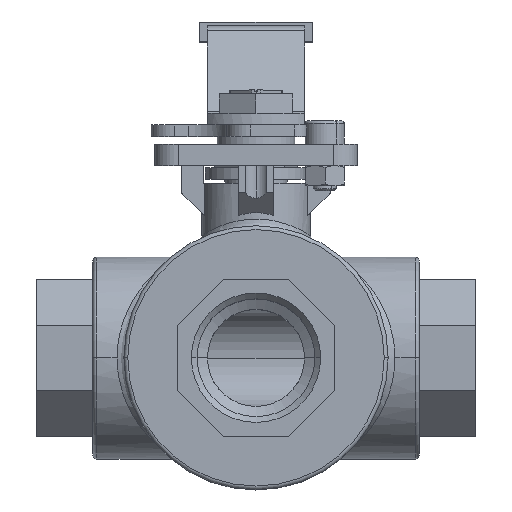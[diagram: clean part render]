
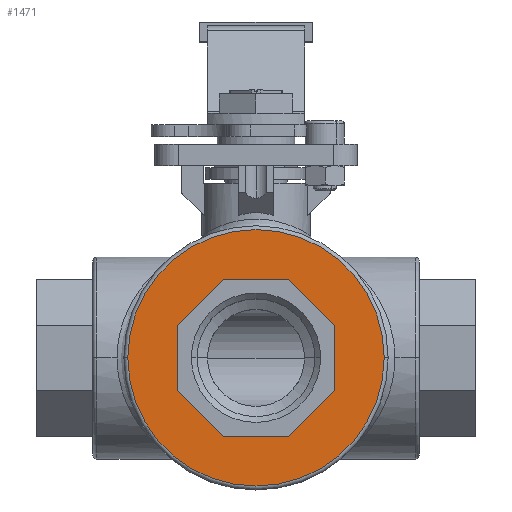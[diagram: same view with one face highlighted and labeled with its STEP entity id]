
A CAD part, top view. The second image highlights one B-rep face of the part: STEP entity #1471.
In plain terms, the highlighted planar face has unit normal (0, 0, 1).
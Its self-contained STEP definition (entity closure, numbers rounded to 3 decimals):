
#502 = LINE ( 'NONE', #505, #4047 ) ;
#505 = CARTESIAN_POINT ( 'NONE',  ( 8.388, 20.25, 42. ) ) ;
#511 = DIRECTION ( 'NONE',  ( -1., 0., 0. ) ) ;
#531 = LINE ( 'NONE', #532, #4059 ) ;
#532 = CARTESIAN_POINT ( 'NONE',  ( 20.25, 8.388, 42. ) ) ;
#541 = DIRECTION ( 'NONE',  ( -0.707, 0.707, 0. ) ) ;
#571 = LINE ( 'NONE', #589, #3631 ) ;
#582 = LINE ( 'NONE', #584, #3629 ) ;
#584 = CARTESIAN_POINT ( 'NONE',  ( 20.25, -8.388, 42. ) ) ;
#585 = DIRECTION ( 'NONE',  ( 0., 1., 0. ) ) ;
#589 = CARTESIAN_POINT ( 'NONE',  ( 8.388, -20.25, 42. ) ) ;
#590 = DIRECTION ( 'NONE',  ( 0.707, 0.707, 0. ) ) ;
#592 = CARTESIAN_POINT ( 'NONE',  ( 0., 0., 42. ) ) ;
#593 = DIRECTION ( 'NONE',  ( 0., 0., 1. ) ) ;
#594 = DIRECTION ( 'NONE',  ( 1., 0., 0. ) ) ;
#601 = LINE ( 'NONE', #602, #3642 ) ;
#602 = CARTESIAN_POINT ( 'NONE',  ( -8.388, -20.25, 42. ) ) ;
#611 = DIRECTION ( 'NONE',  ( 1., 0., 0. ) ) ;
#612 = LINE ( 'NONE', #613, #3644 ) ;
#613 = CARTESIAN_POINT ( 'NONE',  ( -20.25, -8.388, 42. ) ) ;
#614 = DIRECTION ( 'NONE',  ( 0.707, -0.707, 0. ) ) ;
#655 = LINE ( 'NONE', #656, #3660 ) ;
#656 = CARTESIAN_POINT ( 'NONE',  ( -8.388, 20.25, 42. ) ) ;
#657 = DIRECTION ( 'NONE',  ( -0.707, -0.707, 0. ) ) ;
#1224 = LINE ( 'NONE', #1225, #3783 ) ;
#1225 = CARTESIAN_POINT ( 'NONE',  ( -20.25, 8.388, 42. ) ) ;
#1226 = DIRECTION ( 'NONE',  ( 0., -1., 0. ) ) ;
#1471 = ADVANCED_FACE ( 'NONE', ( #11721, #11715 ), #11723, .T. ) ;
#1714 = AXIS2_PLACEMENT_3D ( 'NONE', #11720, #11717, #11725 ) ;
#1913 = CARTESIAN_POINT ( 'NONE',  ( -8.388, -20.25, 42. ) ) ;
#1914 = CARTESIAN_POINT ( 'NONE',  ( 8.388, -20.25, 42. ) ) ;
#1915 = CARTESIAN_POINT ( 'NONE',  ( 8.388, 20.25, 42. ) ) ;
#1992 = CARTESIAN_POINT ( 'NONE',  ( 20.25, -8.388, 42. ) ) ;
#1993 = CARTESIAN_POINT ( 'NONE',  ( 20.25, 8.388, 42. ) ) ;
#1994 = CARTESIAN_POINT ( 'NONE',  ( -20.25, -8.388, 42. ) ) ;
#1995 = CARTESIAN_POINT ( 'NONE',  ( -20.25, 8.388, 42. ) ) ;
#1996 = CARTESIAN_POINT ( 'NONE',  ( -8.388, 20.25, 42. ) ) ;
#3629 = VECTOR ( 'NONE', #585, 1000. ) ;
#3631 = VECTOR ( 'NONE', #590, 1000. ) ;
#3634 = CIRCLE ( 'NONE', #3636, 33. ) ;
#3636 = AXIS2_PLACEMENT_3D ( 'NONE', #592, #593, #594 ) ;
#3642 = VECTOR ( 'NONE', #611, 1000. ) ;
#3644 = VECTOR ( 'NONE', #614, 1000. ) ;
#3660 = VECTOR ( 'NONE', #657, 1000. ) ;
#3783 = VECTOR ( 'NONE', #1226, 1000. ) ;
#4047 = VECTOR ( 'NONE', #511, 1000. ) ;
#4059 = VECTOR ( 'NONE', #541, 1000. ) ;
#4114 = EDGE_CURVE ( 'NONE', #5077, #5040, #8972, .T. ) ;
#5040 = VERTEX_POINT ( 'NONE', #10837 ) ;
#5077 = VERTEX_POINT ( 'NONE', #10860 ) ;
#5448 = VERTEX_POINT ( 'NONE', #1913 ) ;
#5449 = VERTEX_POINT ( 'NONE', #1914 ) ;
#5450 = VERTEX_POINT ( 'NONE', #1915 ) ;
#5635 = VERTEX_POINT ( 'NONE', #1992 ) ;
#5636 = VERTEX_POINT ( 'NONE', #1993 ) ;
#5637 = VERTEX_POINT ( 'NONE', #1994 ) ;
#5638 = VERTEX_POINT ( 'NONE', #1995 ) ;
#5639 = VERTEX_POINT ( 'NONE', #1996 ) ;
#7135 = EDGE_LOOP ( 'NONE', ( #9488, #9487, #9489, #9491, #9492, #9493, #9494, #9495 ) ) ;
#7428 = EDGE_LOOP ( 'NONE', ( #9502, #9503 ) ) ;
#7601 = EDGE_CURVE ( 'NONE', #5450, #5639, #502, .T. ) ;
#7610 = EDGE_CURVE ( 'NONE', #5636, #5450, #531, .T. ) ;
#7624 = EDGE_CURVE ( 'NONE', #5635, #5636, #582, .T. ) ;
#7626 = EDGE_CURVE ( 'NONE', #5449, #5635, #571, .T. ) ;
#7627 = EDGE_CURVE ( 'NONE', #5040, #5077, #3634, .T. ) ;
#7633 = EDGE_CURVE ( 'NONE', #5448, #5449, #601, .T. ) ;
#7634 = EDGE_CURVE ( 'NONE', #5637, #5448, #612, .T. ) ;
#7649 = EDGE_CURVE ( 'NONE', #5639, #5638, #655, .T. ) ;
#7741 = EDGE_CURVE ( 'NONE', #5638, #5637, #1224, .T. ) ;
#8972 = CIRCLE ( 'NONE', #8974, 33. ) ;
#8974 = AXIS2_PLACEMENT_3D ( 'NONE', #10514, #10515, #10516 ) ;
#9487 = ORIENTED_EDGE ( 'NONE', *, *, #7610, .F. ) ;
#9488 = ORIENTED_EDGE ( 'NONE', *, *, #7601, .F. ) ;
#9489 = ORIENTED_EDGE ( 'NONE', *, *, #7624, .F. ) ;
#9491 = ORIENTED_EDGE ( 'NONE', *, *, #7626, .F. ) ;
#9492 = ORIENTED_EDGE ( 'NONE', *, *, #7633, .F. ) ;
#9493 = ORIENTED_EDGE ( 'NONE', *, *, #7634, .F. ) ;
#9494 = ORIENTED_EDGE ( 'NONE', *, *, #7741, .F. ) ;
#9495 = ORIENTED_EDGE ( 'NONE', *, *, #7649, .F. ) ;
#9502 = ORIENTED_EDGE ( 'NONE', *, *, #4114, .T. ) ;
#9503 = ORIENTED_EDGE ( 'NONE', *, *, #7627, .T. ) ;
#10514 = CARTESIAN_POINT ( 'NONE',  ( 0., 0., 42. ) ) ;
#10515 = DIRECTION ( 'NONE',  ( 0., 0., 1. ) ) ;
#10516 = DIRECTION ( 'NONE',  ( 1., 0., 0. ) ) ;
#10837 = CARTESIAN_POINT ( 'NONE',  ( -33., 0., 42. ) ) ;
#10860 = CARTESIAN_POINT ( 'NONE',  ( 33., 0., 42. ) ) ;
#11715 = FACE_BOUND ( 'NONE', #7135, .T. ) ;
#11717 = DIRECTION ( 'NONE',  ( 0., 0., 1. ) ) ;
#11720 = CARTESIAN_POINT ( 'NONE',  ( 0., 0., 42. ) ) ;
#11721 = FACE_OUTER_BOUND ( 'NONE', #7428, .T. ) ;
#11723 = PLANE ( 'NONE',  #1714 ) ;
#11725 = DIRECTION ( 'NONE',  ( 1., 0., 0. ) ) ;
